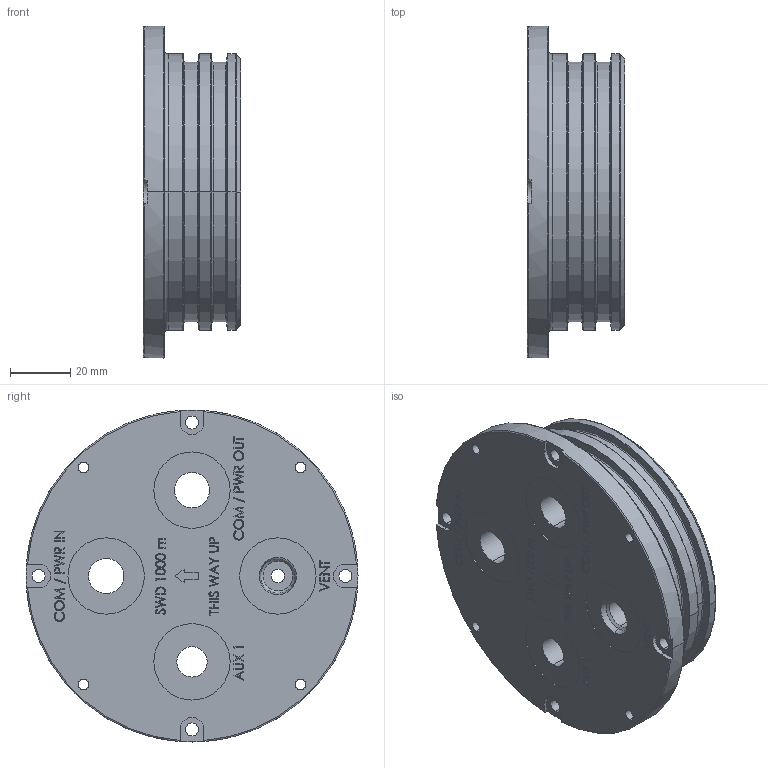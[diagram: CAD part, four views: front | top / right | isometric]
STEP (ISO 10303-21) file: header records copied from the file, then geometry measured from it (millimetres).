
FILE_DESCRIPTION (( 'STEP AP203' ), '1' );
FILE_NAME ('100221989 Housing A Connector Endcap_A.STEP', '2023-09-05T23:43:20', ( '' ), ( '' ), 'SwSTEP 2.0', 'SolidWorks 2023', '' );
FILE_SCHEMA (( 'CONFIG_CONTROL_DESIGN' ));
Length unit declared in the file: inch
Products named in the file (1): 100221989 Housing A Connector Endcap_A
Bounding box: 32.38 x 110.49 x 110.49 mm (x, y, z)
Volume: 152516.4 mm3; surface area: 36944.5 mm2
Topology: 1 solids, 1 shells, 681 faces, 1785 edges, 1168 vertices
Faces by surface type: plane 400, bspline 164, cylinder 61, cone 30, torus 26
Entity records: 31460 total; most frequent: CARTESIAN_POINT 15897, ORIENTED_EDGE 3554, DIRECTION 2504, EDGE_CURVE 1777, VERTEX_POINT 1168, VECTOR 1072, LINE 1072, EDGE_LOOP 775
